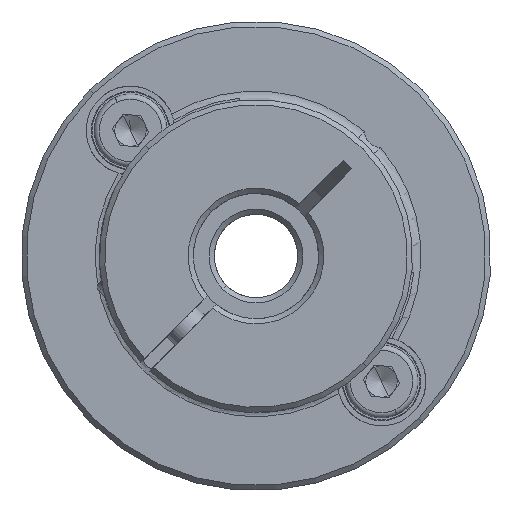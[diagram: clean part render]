
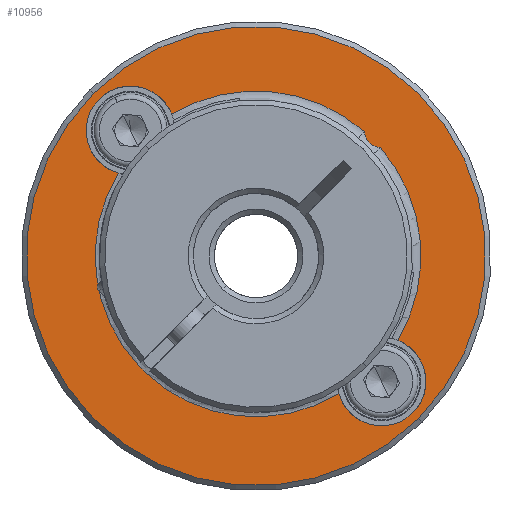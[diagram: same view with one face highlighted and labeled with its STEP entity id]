
A CAD part, front view. The second image highlights one B-rep face of the part: STEP entity #10956.
In plain terms, the highlighted planar face has unit normal (0, -1, 0).
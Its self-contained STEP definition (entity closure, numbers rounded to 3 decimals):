
#11 = ORIENTED_EDGE ( 'NONE', *, *, #4164, .T. ) ;
#50 = EDGE_CURVE ( 'NONE', #9373, #4473, #12096, .T. ) ;
#158 = CIRCLE ( 'NONE', #6859, 15.8 ) ;
#453 = CARTESIAN_POINT ( 'NONE',  ( 12.495, 21.413, 28.888 ) ) ;
#586 = ORIENTED_EDGE ( 'NONE', *, *, #10949, .T. ) ;
#614 = CARTESIAN_POINT ( 'NONE',  ( -18.087, 21.413, 59.47 ) ) ;
#619 = DIRECTION ( 'NONE',  ( 0., 1., 0. ) ) ;
#742 = DIRECTION ( 'NONE',  ( -0.707, 0., 0.707 ) ) ;
#884 = VERTEX_POINT ( 'NONE', #8892 ) ;
#1022 = AXIS2_PLACEMENT_3D ( 'NONE', #1529, #7418, #10286 ) ;
#1073 = VERTEX_POINT ( 'NONE', #5310 ) ;
#1370 = EDGE_CURVE ( 'NONE', #7192, #7529, #2654, .T. ) ;
#1529 = CARTESIAN_POINT ( 'NONE',  ( 9.49, 21.413, 31.893 ) ) ;
#1671 = CIRCLE ( 'NONE', #9688, 4.25 ) ;
#1992 = CARTESIAN_POINT ( 'NONE',  ( -2.531, 21.413, 43.914 ) ) ;
#2214 = DIRECTION ( 'NONE',  ( 0., 1., 0. ) ) ;
#2243 = EDGE_CURVE ( 'NONE', #884, #11763, #2348, .T. ) ;
#2251 = CARTESIAN_POINT ( 'NONE',  ( 9.49, 21.413, 55.935 ) ) ;
#2252 = CARTESIAN_POINT ( 'NONE',  ( -14.552, 21.413, 55.935 ) ) ;
#2348 = CIRCLE ( 'NONE', #12033, 15.8 ) ;
#2501 = CIRCLE ( 'NONE', #11238, 15.4 ) ;
#2628 = ORIENTED_EDGE ( 'NONE', *, *, #1370, .T. ) ;
#2654 = CIRCLE ( 'NONE', #5467, 22. ) ;
#2813 = VERTEX_POINT ( 'NONE', #10053 ) ;
#3159 = AXIS2_PLACEMENT_3D ( 'NONE', #5351, #7219, #5267 ) ;
#3198 = EDGE_CURVE ( 'NONE', #1073, #884, #3503, .T. ) ;
#3265 = DIRECTION ( 'NONE',  ( 0., -1., 0. ) ) ;
#3338 = EDGE_CURVE ( 'NONE', #7529, #7192, #10663, .T. ) ;
#3395 = ORIENTED_EDGE ( 'NONE', *, *, #50, .T. ) ;
#3503 = CIRCLE ( 'NONE', #6362, 1.65 ) ;
#3581 = DIRECTION ( 'NONE',  ( 0., 1., 0. ) ) ;
#3693 = CARTESIAN_POINT ( 'NONE',  ( 9.49, 21.413, 55.935 ) ) ;
#4075 = DIRECTION ( 'NONE',  ( 0., -1., 0. ) ) ;
#4088 = AXIS2_PLACEMENT_3D ( 'NONE', #3693, #7489, #5504 ) ;
#4164 = EDGE_CURVE ( 'NONE', #2813, #9926, #2501, .T. ) ;
#4217 = DIRECTION ( 'NONE',  ( 1., 0., 0. ) ) ;
#4340 = ORIENTED_EDGE ( 'NONE', *, *, #10507, .T. ) ;
#4438 = DIRECTION ( 'NONE',  ( 0., 1., 0. ) ) ;
#4473 = VERTEX_POINT ( 'NONE', #7330 ) ;
#4480 = CARTESIAN_POINT ( 'NONE',  ( -14.552, 21.413, 55.935 ) ) ;
#4540 = DIRECTION ( 'NONE',  ( -0.707, 0., 0.707 ) ) ;
#4734 = VERTEX_POINT ( 'NONE', #9729 ) ;
#4858 = CARTESIAN_POINT ( 'NONE',  ( 13.026, 21.413, 28.358 ) ) ;
#5066 = CIRCLE ( 'NONE', #1022, 4.25 ) ;
#5219 = EDGE_LOOP ( 'NONE', ( #2628, #12370 ) ) ;
#5267 = DIRECTION ( 'NONE',  ( -0.707, 0., 0.707 ) ) ;
#5310 = CARTESIAN_POINT ( 'NONE',  ( 7.843, 21.413, 55.831 ) ) ;
#5351 = CARTESIAN_POINT ( 'NONE',  ( -2.531, 21.413, 43.914 ) ) ;
#5467 = AXIS2_PLACEMENT_3D ( 'NONE', #7932, #4075, #10664 ) ;
#5494 = CARTESIAN_POINT ( 'NONE',  ( -2.531, 21.413, 43.914 ) ) ;
#5504 = DIRECTION ( 'NONE',  ( 0.145, 0., -0.989 ) ) ;
#5617 = ORIENTED_EDGE ( 'NONE', *, *, #9583, .T. ) ;
#6144 = CARTESIAN_POINT ( 'NONE',  ( -13.464, 21.413, 33.162 ) ) ;
#6186 = CARTESIAN_POINT ( 'NONE',  ( -13.688, 21.413, 33.299 ) ) ;
#6362 = AXIS2_PLACEMENT_3D ( 'NONE', #2251, #3265, #4217 ) ;
#6438 = EDGE_CURVE ( 'NONE', #9926, #8191, #11417, .T. ) ;
#6497 = CARTESIAN_POINT ( 'NONE',  ( -2.531, 21.413, 43.914 ) ) ;
#6540 = DIRECTION ( 'NONE',  ( 0., 1., 0. ) ) ;
#6574 = ORIENTED_EDGE ( 'NONE', *, *, #3198, .T. ) ;
#6685 = DIRECTION ( 'NONE',  ( 0., 1., 0. ) ) ;
#6859 = AXIS2_PLACEMENT_3D ( 'NONE', #6497, #6540, #742 ) ;
#6913 = CARTESIAN_POINT ( 'NONE',  ( -15.728, 21.413, 51.851 ) ) ;
#7012 = CARTESIAN_POINT ( 'NONE',  ( 5.406, 21.413, 30.717 ) ) ;
#7049 = CARTESIAN_POINT ( 'NONE',  ( 11.054, 21.413, 35.845 ) ) ;
#7137 = PLANE ( 'NONE',  #4088 ) ;
#7192 = VERTEX_POINT ( 'NONE', #4858 ) ;
#7197 = EDGE_CURVE ( 'NONE', #4734, #1073, #158, .T. ) ;
#7219 = DIRECTION ( 'NONE',  ( 0., -1., 0. ) ) ;
#7276 = DIRECTION ( 'NONE',  ( -0.707, 0., 0.707 ) ) ;
#7330 = CARTESIAN_POINT ( 'NONE',  ( -13.145, 21.413, 32.757 ) ) ;
#7418 = DIRECTION ( 'NONE',  ( 0., 1., 0. ) ) ;
#7489 = DIRECTION ( 'NONE',  ( 0., -1., 0. ) ) ;
#7529 = VERTEX_POINT ( 'NONE', #614 ) ;
#7541 = CARTESIAN_POINT ( 'NONE',  ( -17.557, 21.413, 58.94 ) ) ;
#7593 = DIRECTION ( 'NONE',  ( -0.707, 0., 0.707 ) ) ;
#7932 = CARTESIAN_POINT ( 'NONE',  ( -2.531, 21.413, 43.914 ) ) ;
#7965 = FACE_BOUND ( 'NONE', #8335, .T. ) ;
#8059 = DIRECTION ( 'NONE',  ( -0.707, 0., 0.707 ) ) ;
#8191 = VERTEX_POINT ( 'NONE', #7541 ) ;
#8203 = DIRECTION ( 'NONE',  ( -0.707, 0., 0.707 ) ) ;
#8335 = EDGE_LOOP ( 'NONE', ( #6574, #12157, #11077, #5617, #3395, #586, #11, #11435, #4340, #11625 ) ) ;
#8405 = FACE_OUTER_BOUND ( 'NONE', #5219, .T. ) ;
#8892 = CARTESIAN_POINT ( 'NONE',  ( 9.386, 21.413, 54.288 ) ) ;
#9065 = DIRECTION ( 'NONE',  ( -0.707, 0., 0.707 ) ) ;
#9157 = DIRECTION ( 'NONE',  ( 0., 1., 0. ) ) ;
#9280 = AXIS2_PLACEMENT_3D ( 'NONE', #10281, #3581, #4540 ) ;
#9281 = CARTESIAN_POINT ( 'NONE',  ( 9.49, 21.413, 31.893 ) ) ;
#9373 = VERTEX_POINT ( 'NONE', #7012 ) ;
#9583 = EDGE_CURVE ( 'NONE', #12260, #9373, #5066, .T. ) ;
#9688 = AXIS2_PLACEMENT_3D ( 'NONE', #9281, #619, #8203 ) ;
#9729 = CARTESIAN_POINT ( 'NONE',  ( -10.6, 21.413, 57.498 ) ) ;
#9926 = VERTEX_POINT ( 'NONE', #6913 ) ;
#9950 = AXIS2_PLACEMENT_3D ( 'NONE', #2252, #2214, #8059 ) ;
#10053 = CARTESIAN_POINT ( 'NONE',  ( -13.688, 21.413, 33.299 ) ) ;
#10281 = CARTESIAN_POINT ( 'NONE',  ( -2.531, 21.413, 43.914 ) ) ;
#10286 = DIRECTION ( 'NONE',  ( -0.707, 0., 0.707 ) ) ;
#10507 = EDGE_CURVE ( 'NONE', #8191, #4734, #10550, .T. ) ;
#10550 = CIRCLE ( 'NONE', #10792, 4.25 ) ;
#10663 = CIRCLE ( 'NONE', #3159, 22. ) ;
#10664 = DIRECTION ( 'NONE',  ( -0.707, 0., 0.707 ) ) ;
#10792 = AXIS2_PLACEMENT_3D ( 'NONE', #4480, #4438, #9065 ) ;
#10796 = CARTESIAN_POINT ( 'NONE',  ( -13.145, 21.413, 32.757 ) ) ;
#10949 = EDGE_CURVE ( 'NONE', #4473, #2813, #12338, .T. ) ;
#10956 = ADVANCED_FACE ( 'NONE', ( #7965, #8405 ), #7137, .T. ) ;
#11077 = ORIENTED_EDGE ( 'NONE', *, *, #12382, .T. ) ;
#11238 = AXIS2_PLACEMENT_3D ( 'NONE', #1992, #6685, #7593 ) ;
#11417 = CIRCLE ( 'NONE', #9950, 4.25 ) ;
#11435 = ORIENTED_EDGE ( 'NONE', *, *, #6438, .T. ) ;
#11625 = ORIENTED_EDGE ( 'NONE', *, *, #7197, .T. ) ;
#11763 = VERTEX_POINT ( 'NONE', #7049 ) ;
#11859 = CARTESIAN_POINT ( 'NONE',  ( -13.283, 21.413, 32.981 ) ) ;
#12033 = AXIS2_PLACEMENT_3D ( 'NONE', #5494, #9157, #7276 ) ;
#12096 = CIRCLE ( 'NONE', #9280, 15.4 ) ;
#12157 = ORIENTED_EDGE ( 'NONE', *, *, #2243, .T. ) ;
#12260 = VERTEX_POINT ( 'NONE', #453 ) ;
#12338 = B_SPLINE_CURVE_WITH_KNOTS ( 'NONE', 3,
 ( #10796, #11859, #6144, #6186 ),
 .UNSPECIFIED., .F., .F.,
 ( 4, 4 ),
 ( 0., 1. ),
 .UNSPECIFIED. ) ;
#12370 = ORIENTED_EDGE ( 'NONE', *, *, #3338, .T. ) ;
#12382 = EDGE_CURVE ( 'NONE', #11763, #12260, #1671, .T. ) ;
